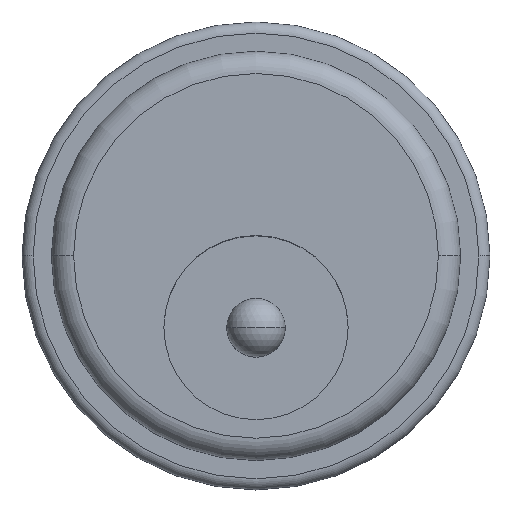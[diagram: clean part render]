
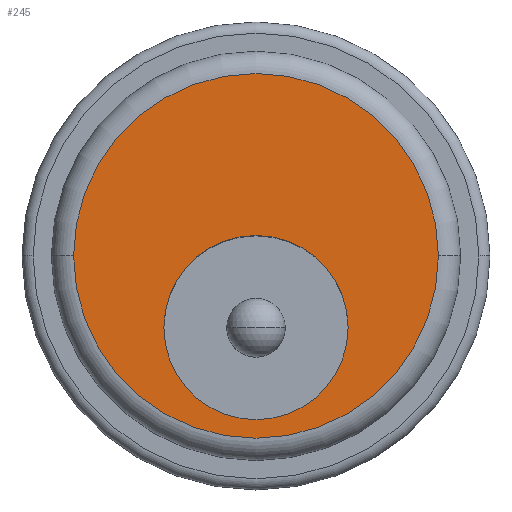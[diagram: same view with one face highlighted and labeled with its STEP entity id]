
A CAD part, top view. The second image highlights one B-rep face of the part: STEP entity #245.
In plain terms, the highlighted planar face has unit normal (0, 0, 1).
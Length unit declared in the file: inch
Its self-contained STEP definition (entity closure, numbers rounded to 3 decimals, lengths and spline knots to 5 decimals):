
#12 = EDGE_CURVE ( 'NONE', #843, #900, #686, .T. ) ;
#19 = EDGE_LOOP ( 'NONE', ( #1062, #1151 ) ) ;
#29 = AXIS2_PLACEMENT_3D ( 'NONE', #940, #229, #365 ) ;
#75 = DIRECTION ( 'NONE',  ( 1., 0., 0. ) ) ;
#103 = EDGE_LOOP ( 'NONE', ( #535, #1592 ) ) ;
#162 = CARTESIAN_POINT ( 'NONE',  ( 0., 0., 0.079 ) ) ;
#229 = DIRECTION ( 'NONE',  ( 0., 0., 1. ) ) ;
#245 = ADVANCED_FACE ( 'NONE', ( #1518, #987 ), #1662, .T. ) ;
#294 = DIRECTION ( 'NONE',  ( 0., 0., 1. ) ) ;
#301 = EDGE_CURVE ( 'NONE', #900, #843, #834, .T. ) ;
#365 = DIRECTION ( 'NONE',  ( 1., 0., 0. ) ) ;
#368 = DIRECTION ( 'NONE',  ( 0., 0., 1. ) ) ;
#386 = CARTESIAN_POINT ( 'NONE',  ( 0., 0., 0.079 ) ) ;
#417 = CARTESIAN_POINT ( 'NONE',  ( 0., -0.0965, 0.079 ) ) ;
#459 = VERTEX_POINT ( 'NONE', #1765 ) ;
#484 = DIRECTION ( 'NONE',  ( 1., 0., 0. ) ) ;
#535 = ORIENTED_EDGE ( 'NONE', *, *, #12, .F. ) ;
#555 = DIRECTION ( 'NONE',  ( 0., 0., 1. ) ) ;
#571 = CARTESIAN_POINT ( 'NONE',  ( -0.2455, 0., 0.079 ) ) ;
#656 = EDGE_CURVE ( 'NONE', #459, #1240, #1197, .T. ) ;
#672 = AXIS2_PLACEMENT_3D ( 'NONE', #386, #1087, #1814 ) ;
#686 = CIRCLE ( 'NONE', #1428, 0.124 ) ;
#828 = DIRECTION ( 'NONE',  ( 1., 0., 0. ) ) ;
#834 = CIRCLE ( 'NONE', #985, 0.124 ) ;
#843 = VERTEX_POINT ( 'NONE', #862 ) ;
#862 = CARTESIAN_POINT ( 'NONE',  ( 0.124, -0.0965, 0.079 ) ) ;
#900 = VERTEX_POINT ( 'NONE', #1617 ) ;
#940 = CARTESIAN_POINT ( 'NONE',  ( 0., 0., 0.079 ) ) ;
#985 = AXIS2_PLACEMENT_3D ( 'NONE', #417, #555, #484 ) ;
#987 = FACE_OUTER_BOUND ( 'NONE', #19, .T. ) ;
#1048 = CARTESIAN_POINT ( 'NONE',  ( 0., -0.0965, 0.079 ) ) ;
#1062 = ORIENTED_EDGE ( 'NONE', *, *, #656, .T. ) ;
#1087 = DIRECTION ( 'NONE',  ( 0., 0., 1. ) ) ;
#1151 = ORIENTED_EDGE ( 'NONE', *, *, #1637, .T. ) ;
#1197 = CIRCLE ( 'NONE', #1777, 0.2455 ) ;
#1240 = VERTEX_POINT ( 'NONE', #571 ) ;
#1428 = AXIS2_PLACEMENT_3D ( 'NONE', #1048, #368, #75 ) ;
#1518 = FACE_BOUND ( 'NONE', #103, .T. ) ;
#1592 = ORIENTED_EDGE ( 'NONE', *, *, #301, .F. ) ;
#1602 = CIRCLE ( 'NONE', #29, 0.2455 ) ;
#1617 = CARTESIAN_POINT ( 'NONE',  ( -0.124, -0.0965, 0.079 ) ) ;
#1637 = EDGE_CURVE ( 'NONE', #1240, #459, #1602, .T. ) ;
#1662 = PLANE ( 'NONE',  #672 ) ;
#1765 = CARTESIAN_POINT ( 'NONE',  ( 0.2455, 0., 0.079 ) ) ;
#1777 = AXIS2_PLACEMENT_3D ( 'NONE', #162, #294, #828 ) ;
#1814 = DIRECTION ( 'NONE',  ( 1., 0., 0. ) ) ;
